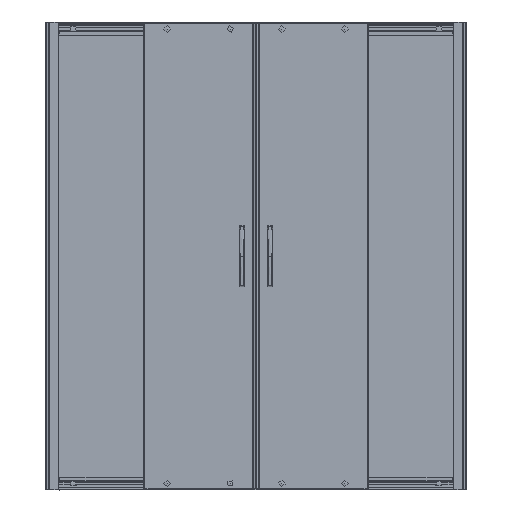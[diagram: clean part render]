
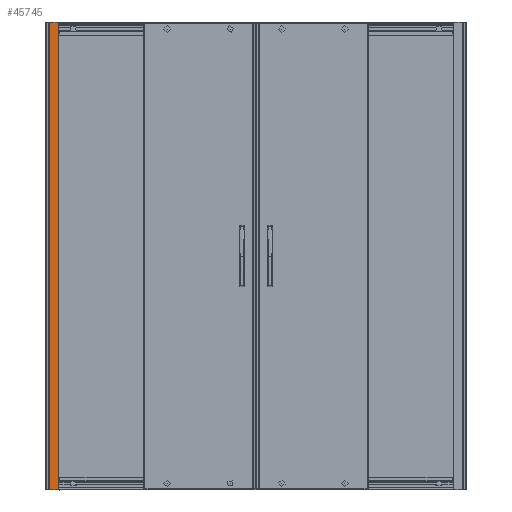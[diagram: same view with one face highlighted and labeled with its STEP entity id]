
A CAD part, left-side view. The second image highlights one B-rep face of the part: STEP entity #45745.
In plain terms, the highlighted planar face has unit normal (-1, 0, 0).
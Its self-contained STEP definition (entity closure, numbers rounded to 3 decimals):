
#2591=LINE($,#84564,#6435);
#2593=LINE($,#84569,#6437);
#2594=LINE($,#84571,#6438);
#2595=LINE($,#84572,#6439);
#6435=VECTOR($,#56581,2000.);
#6437=VECTOR($,#56587,36.966);
#6438=VECTOR($,#56588,2000.);
#6439=VECTOR($,#56589,36.966);
#9512=PLANE($,#49164);
#12531=FACE_OUTER_BOUND($,#15276,.T.);
#15276=EDGE_LOOP($,(#33944,#33945,#33946,#33947));
#20487=VERTEX_POINT($,#84560);
#20489=VERTEX_POINT($,#84563);
#20490=VERTEX_POINT($,#84568);
#20491=VERTEX_POINT($,#84570);
#25468=EDGE_CURVE($,#20487,#20489,#2591,.T.);
#25471=EDGE_CURVE($,#20490,#20487,#2593,.T.);
#25472=EDGE_CURVE($,#20491,#20490,#2594,.T.);
#25473=EDGE_CURVE($,#20489,#20491,#2595,.T.);
#33944=ORIENTED_EDGE($,*,*,#25468,.F.);
#33945=ORIENTED_EDGE($,*,*,#25471,.F.);
#33946=ORIENTED_EDGE($,*,*,#25472,.F.);
#33947=ORIENTED_EDGE($,*,*,#25473,.F.);
#45745=ADVANCED_FACE($,(#12531),#9512,.T.);
#49164=AXIS2_PLACEMENT_3D($,#84567,#56585,#56586);
#56581=DIRECTION($,(0.,0.,-1.));
#56585=DIRECTION('center_axis',(-1.,0.,0.));
#56586=DIRECTION('ref_axis',(0.,1.,0.));
#56587=DIRECTION($,(0.,-1.,0.));
#56588=DIRECTION($,(0.,0.,1.));
#56589=DIRECTION($,(0.,1.,0.));
#84560=CARTESIAN_POINT('',(834.086,1043.486,2010.));
#84563=CARTESIAN_POINT('',(834.086,1043.486,10.));
#84564=CARTESIAN_POINT($,(834.086,1043.486,2010.));
#84567=CARTESIAN_POINT('Origin',(834.086,1042.986,2010.));
#84568=CARTESIAN_POINT('',(834.086,1080.452,2010.));
#84569=CARTESIAN_POINT($,(834.086,1052.502,2010.));
#84570=CARTESIAN_POINT('',(834.086,1080.452,10.));
#84571=CARTESIAN_POINT($,(834.086,1080.452,10.));
#84572=CARTESIAN_POINT($,(834.086,1042.986,10.));
